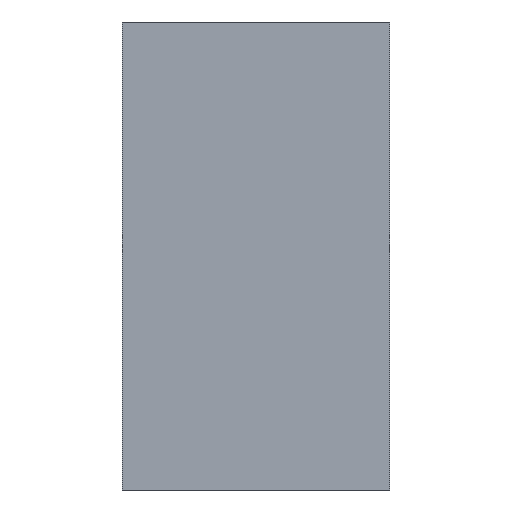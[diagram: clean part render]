
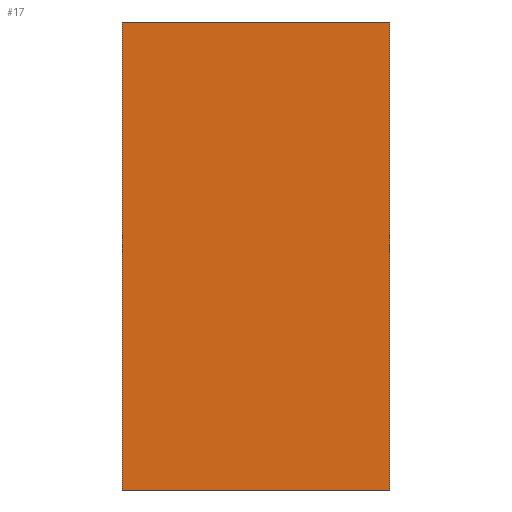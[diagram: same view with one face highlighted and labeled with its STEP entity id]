
A CAD part, left-side view. The second image highlights one B-rep face of the part: STEP entity #17.
In plain terms, the highlighted planar face has unit normal (-1, 0, 0).
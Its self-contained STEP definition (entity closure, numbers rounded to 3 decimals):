
#17 = ADVANCED_FACE('',(#18),#32,.F.);
#18 = FACE_BOUND('',#19,.F.);
#19 = EDGE_LOOP('',(#20,#55,#83,#111));
#20 = ORIENTED_EDGE('',*,*,#21,.F.);
#21 = EDGE_CURVE('',#22,#24,#26,.T.);
#22 = VERTEX_POINT('',#23);
#23 = CARTESIAN_POINT('',(8.,46.,2.));
#24 = VERTEX_POINT('',#25);
#25 = CARTESIAN_POINT('',(8.,46.,12.5));
#26 = SURFACE_CURVE('',#27,(#31,#43),.PCURVE_S1.);
#27 = LINE('',#28,#29);
#28 = CARTESIAN_POINT('',(8.,46.,2.));
#29 = VECTOR('',#30,1.);
#30 = DIRECTION('',(0.,0.,1.));
#31 = PCURVE('',#32,#37);
#32 = PLANE('',#33);
#33 = AXIS2_PLACEMENT_3D('',#34,#35,#36);
#34 = CARTESIAN_POINT('',(8.,46.,2.));
#35 = DIRECTION('',(1.,0.,-0.));
#36 = DIRECTION('',(0.,0.,1.));
#37 = DEFINITIONAL_REPRESENTATION('',(#38),#42);
#38 = LINE('',#39,#40);
#39 = CARTESIAN_POINT('',(0.,0.));
#40 = VECTOR('',#41,1.);
#41 = DIRECTION('',(1.,0.));
#42 = ( GEOMETRIC_REPRESENTATION_CONTEXT(2) 
PARAMETRIC_REPRESENTATION_CONTEXT() REPRESENTATION_CONTEXT('2D SPACE',''
  ) );
#43 = PCURVE('',#44,#49);
#44 = PLANE('',#45);
#45 = AXIS2_PLACEMENT_3D('',#46,#47,#48);
#46 = CARTESIAN_POINT('',(8.,46.,2.));
#47 = DIRECTION('',(-0.,1.,0.));
#48 = DIRECTION('',(0.,0.,1.));
#49 = DEFINITIONAL_REPRESENTATION('',(#50),#54);
#50 = LINE('',#51,#52);
#51 = CARTESIAN_POINT('',(0.,0.));
#52 = VECTOR('',#53,1.);
#53 = DIRECTION('',(1.,0.));
#54 = ( GEOMETRIC_REPRESENTATION_CONTEXT(2) 
PARAMETRIC_REPRESENTATION_CONTEXT() REPRESENTATION_CONTEXT('2D SPACE',''
  ) );
#55 = ORIENTED_EDGE('',*,*,#56,.F.);
#56 = EDGE_CURVE('',#57,#22,#59,.T.);
#57 = VERTEX_POINT('',#58);
#58 = CARTESIAN_POINT('',(8.,52.,2.));
#59 = SURFACE_CURVE('',#60,(#64,#71),.PCURVE_S1.);
#60 = LINE('',#61,#62);
#61 = CARTESIAN_POINT('',(8.,52.,2.));
#62 = VECTOR('',#63,1.);
#63 = DIRECTION('',(0.,-1.,0.));
#64 = PCURVE('',#32,#65);
#65 = DEFINITIONAL_REPRESENTATION('',(#66),#70);
#66 = LINE('',#67,#68);
#67 = CARTESIAN_POINT('',(0.,-6.));
#68 = VECTOR('',#69,1.);
#69 = DIRECTION('',(0.,1.));
#70 = ( GEOMETRIC_REPRESENTATION_CONTEXT(2) 
PARAMETRIC_REPRESENTATION_CONTEXT() REPRESENTATION_CONTEXT('2D SPACE',''
  ) );
#71 = PCURVE('',#72,#77);
#72 = PLANE('',#73);
#73 = AXIS2_PLACEMENT_3D('',#74,#75,#76);
#74 = CARTESIAN_POINT('',(8.,46.,2.));
#75 = DIRECTION('',(0.,0.,1.));
#76 = DIRECTION('',(1.,0.,-0.));
#77 = DEFINITIONAL_REPRESENTATION('',(#78),#82);
#78 = LINE('',#79,#80);
#79 = CARTESIAN_POINT('',(0.,6.));
#80 = VECTOR('',#81,1.);
#81 = DIRECTION('',(0.,-1.));
#82 = ( GEOMETRIC_REPRESENTATION_CONTEXT(2) 
PARAMETRIC_REPRESENTATION_CONTEXT() REPRESENTATION_CONTEXT('2D SPACE',''
  ) );
#83 = ORIENTED_EDGE('',*,*,#84,.T.);
#84 = EDGE_CURVE('',#57,#85,#87,.T.);
#85 = VERTEX_POINT('',#86);
#86 = CARTESIAN_POINT('',(8.,52.,12.5));
#87 = SURFACE_CURVE('',#88,(#92,#99),.PCURVE_S1.);
#88 = LINE('',#89,#90);
#89 = CARTESIAN_POINT('',(8.,52.,2.));
#90 = VECTOR('',#91,1.);
#91 = DIRECTION('',(0.,0.,1.));
#92 = PCURVE('',#32,#93);
#93 = DEFINITIONAL_REPRESENTATION('',(#94),#98);
#94 = LINE('',#95,#96);
#95 = CARTESIAN_POINT('',(0.,-6.));
#96 = VECTOR('',#97,1.);
#97 = DIRECTION('',(1.,0.));
#98 = ( GEOMETRIC_REPRESENTATION_CONTEXT(2) 
PARAMETRIC_REPRESENTATION_CONTEXT() REPRESENTATION_CONTEXT('2D SPACE',''
  ) );
#99 = PCURVE('',#100,#105);
#100 = PLANE('',#101);
#101 = AXIS2_PLACEMENT_3D('',#102,#103,#104);
#102 = CARTESIAN_POINT('',(8.,52.,2.));
#103 = DIRECTION('',(-0.,1.,0.));
#104 = DIRECTION('',(0.,0.,1.));
#105 = DEFINITIONAL_REPRESENTATION('',(#106),#110);
#106 = LINE('',#107,#108);
#107 = CARTESIAN_POINT('',(0.,0.));
#108 = VECTOR('',#109,1.);
#109 = DIRECTION('',(1.,0.));
#110 = ( GEOMETRIC_REPRESENTATION_CONTEXT(2) 
PARAMETRIC_REPRESENTATION_CONTEXT() REPRESENTATION_CONTEXT('2D SPACE',''
  ) );
#111 = ORIENTED_EDGE('',*,*,#112,.F.);
#112 = EDGE_CURVE('',#24,#85,#113,.T.);
#113 = SURFACE_CURVE('',#114,(#118,#125),.PCURVE_S1.);
#114 = LINE('',#115,#116);
#115 = CARTESIAN_POINT('',(8.,46.,12.5));
#116 = VECTOR('',#117,1.);
#117 = DIRECTION('',(-0.,1.,0.));
#118 = PCURVE('',#32,#119);
#119 = DEFINITIONAL_REPRESENTATION('',(#120),#124);
#120 = LINE('',#121,#122);
#121 = CARTESIAN_POINT('',(10.5,0.));
#122 = VECTOR('',#123,1.);
#123 = DIRECTION('',(0.,-1.));
#124 = ( GEOMETRIC_REPRESENTATION_CONTEXT(2) 
PARAMETRIC_REPRESENTATION_CONTEXT() REPRESENTATION_CONTEXT('2D SPACE',''
  ) );
#125 = PCURVE('',#126,#131);
#126 = PLANE('',#127);
#127 = AXIS2_PLACEMENT_3D('',#128,#129,#130);
#128 = CARTESIAN_POINT('',(8.,46.,12.5));
#129 = DIRECTION('',(0.,0.,1.));
#130 = DIRECTION('',(1.,0.,-0.));
#131 = DEFINITIONAL_REPRESENTATION('',(#132),#136);
#132 = LINE('',#133,#134);
#133 = CARTESIAN_POINT('',(0.,0.));
#134 = VECTOR('',#135,1.);
#135 = DIRECTION('',(0.,1.));
#136 = ( GEOMETRIC_REPRESENTATION_CONTEXT(2) 
PARAMETRIC_REPRESENTATION_CONTEXT() REPRESENTATION_CONTEXT('2D SPACE',''
  ) );
